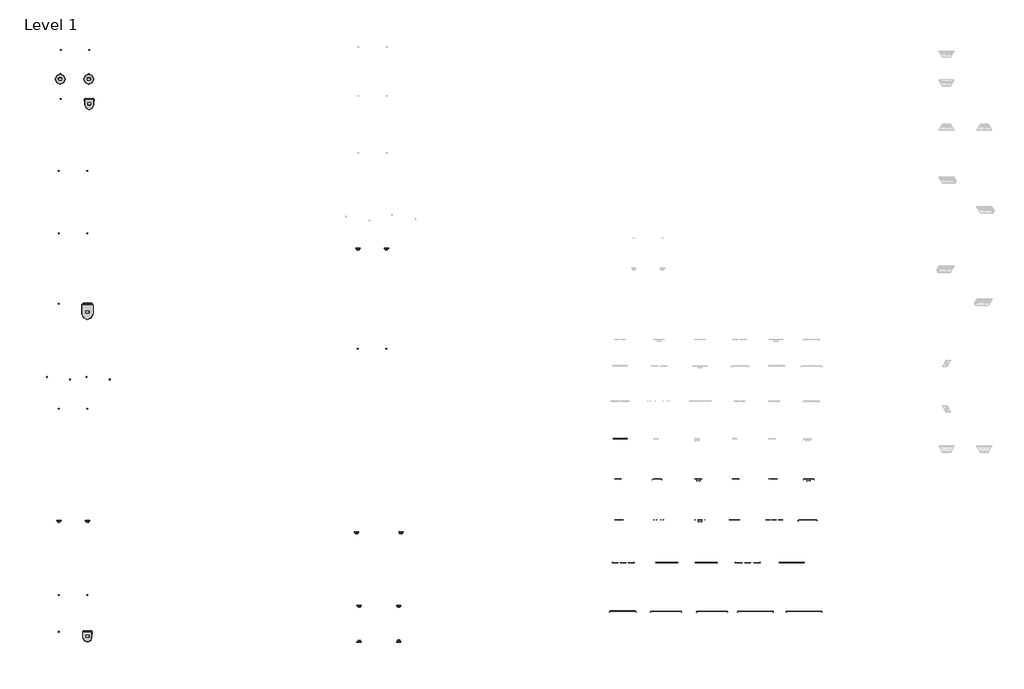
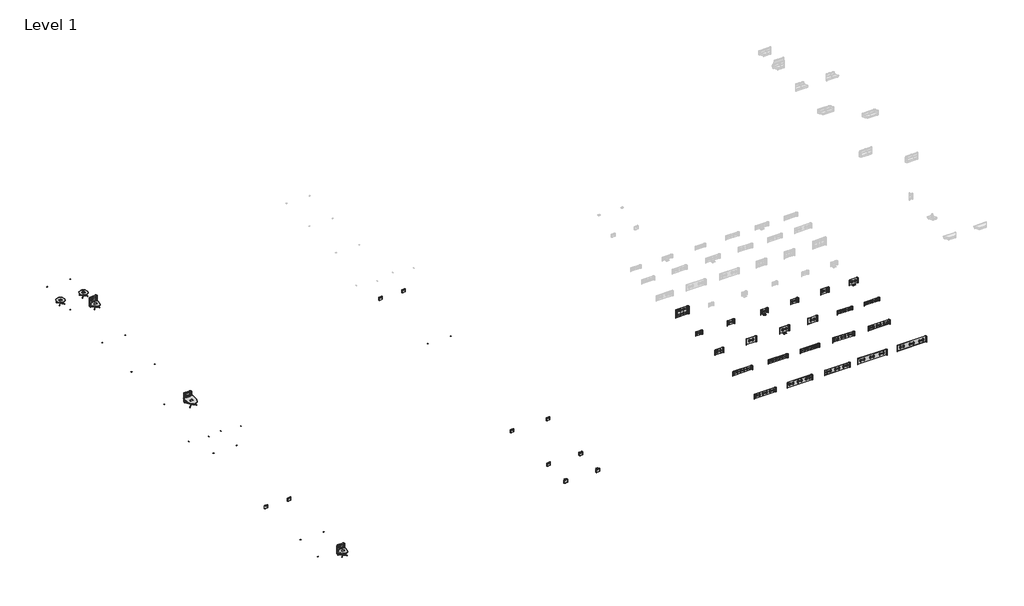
# One storey, part 1 of 2: 60 furniture elements.
"""IFC4 building model written with IfcOpenShell, lengths in millimetres."""

from ifc_helpers import new_model, si_unit, origin, place, context, project, spatial, transform, mapped, element, save
from components import furniture_814a4d4c, furniture_2_1_2in_ef0c8fad, furniture_5_1_2in_ac73947f, single_monitor_d58aa900, single_monitor_78e2c569, single_monitor_780de22c, single_monitor_ce154898, single_monitor_084039e9, single_monitor_e5c85c67, steelcase_media_scape_table_lounge_height_round_laminate_top_3a966390, steelcase_media_scape_table_lounge_height_round_veneer_top_e40d57ec, steelcase_media_scape_wall_mounted_shroud_eeef9ecd, steelcase_media_scape_wall_mounted_shroud_80d280f4, steelcase_media_scape_wall_mounted_shroud_quad_42in_seismic_1889dec9, steelcase_media_scape_wall_mounted_shroud_single_42in_ae8f179e, steelcase_media_scape_wall_mounted_shroud_single_46in_c8ec8d64, steelcase_media_scape_wall_mounted_shroud_single_46in_bridge_72783157, steelcase_media_scape_wall_mounted_shroud_single_46in_9a26b01a, steelcase_media_scape_wall_mounted_shroud_single_55in_b1bea1b6, steelcase_media_scape_wall_mounted_shroud_single_55in_bridge_4c39ce80, steelcase_media_scape_wall_mounted_shroud_single_55in_8a6e21d3, steelcase_media_scape_wall_mounted_shroud_single_65in_d2882137, steelcase_media_scape_wall_mounted_shroud_single_65in_bridge_b7c3bce4, steelcase_media_scape_wall_mounted_shroud_single_65in_a4da2b3e, steelcase_media_scape_wall_mounted_shroud_triple_32in_3cb7a1fa, steelcase_media_scape_wall_mounted_shroud_triple_32in_fca1dc44, steelcase_media_scape_wall_mounted_shroud_triple_42in_8bc5bf69, steelcase_media_scape_wall_mounted_shroud_triple_42in_96fccb2f, steelcase_media_scape_wall_mounted_shroud_triple_46in_d5bfb77c, steelcase_media_scape_wall_mounted_shroud_triple_46in_346eaddb, steelcase_media_scape_wall_mounted_shroud_triple_55in_0f4544b8, steelcase_media_scape_wall_mounted_shroud_triple_55in_44b6645d, steelcase_media_scape_wall_mounted_shroud_triple_65in_d4411b09, steelcase_media_scape_wall_mounted_shroud_triple_65in_e049d22b

model = new_model("IFC4")

# Units and contexts
model_context = context("Model", 3, world=origin())
ifc_project = project(units=[si_unit("LENGTHUNIT", "METRE", prefix="MILLI")], contexts=[model_context])

# Site, building, storey
site = spatial("IfcSite", under=ifc_project)
building = spatial("IfcBuilding", under=site)
storey = spatial("IfcBuildingStorey", under=building, Name="Level 1", Elevation=0.0)

# Furniture
placement = place(None, origin())
furniture_shape = furniture_814a4d4c(model_context)
element("IfcFurniture", 1, ObjectType="Steelcase - Media Scape - CODEC Case : No Codec Case", at=placement, inside=storey, context=model_context, shape_type="MappedRepresentation", body=[
    mapped(furniture_shape, transform((-11994.0290715, -72062.4612238, -123.1137828), x_axis=(1.0, 0.0, 0.0), y_axis=(0.0, 1.0, 0.0), z_axis=(0.0, 0.0, 1.0))),
])
element("IfcFurniture", 2, ObjectType="Steelcase - Media Scape - CODEC Case : No Codec Case", at=placement, inside=storey, context=model_context, shape_type="MappedRepresentation", body=[
    mapped(furniture_shape, transform((-8187.6528239, -72062.4612238, -123.1137828), x_axis=(1.0, 0.0, 0.0), y_axis=(0.0, 1.0, 0.0), z_axis=(0.0, 0.0, 1.0))),
])
element("IfcFurniture", 3, ObjectType="Steelcase - Media Scape - CODEC Case : No Codec Case", at=placement, inside=storey, context=model_context, shape_type="MappedRepresentation", body=[
    mapped(furniture_shape, transform((-11968.6290715, -78615.6612239, -123.1137828), x_axis=(1.0, 0.0, 0.0), y_axis=(0.0, 1.0, 0.0), z_axis=(0.0, 0.0, 1.0))),
])
element("IfcFurniture", 4, ObjectType="Steelcase - Media Scape - CODEC Case : No Codec Case", at=placement, inside=storey, context=model_context, shape_type="MappedRepresentation", body=[
    mapped(furniture_shape, transform((-8168.6028239, -78615.6612239, -123.1137828), x_axis=(1.0, 0.0, 0.0), y_axis=(0.0, 1.0, 0.0), z_axis=(0.0, 0.0, 1.0))),
])
element("IfcFurniture", 5, ObjectType="Steelcase - Media Scape - CODEC Case : No Codec Case", at=placement, inside=storey, context=model_context, shape_type="MappedRepresentation", body=[
    mapped(furniture_shape, transform((-12248.4931199, -88200.0100561, 4.599904), x_axis=(1.0, 0.0, 0.0), y_axis=(0.0, 1.0, 0.0), z_axis=(0.0, 0.0, 1.0))),
])
element("IfcFurniture", 6, ObjectType="Steelcase - Media Scape - CODEC Case : No Codec Case", at=placement, inside=storey, context=model_context, shape_type="MappedRepresentation", body=[
    mapped(furniture_shape, transform((-8442.1168723, -88200.0100561, 4.599904), x_axis=(1.0, 0.0, 0.0), y_axis=(0.0, 1.0, 0.0), z_axis=(0.0, 0.0, 1.0))),
])
element("IfcFurniture", 7, ObjectType="Steelcase - Media Scape - CODEC Case : No Codec Case", at=placement, inside=storey, context=model_context, shape_type="MappedRepresentation", body=[
    mapped(furniture_shape, transform((-12234.5180757, -96568.7214478, 0.0), x_axis=(1.0, 0.0, 0.0), y_axis=(0.0, 1.0, 0.0), z_axis=(0.0, 0.0, 1.0))),
])
element("IfcFurniture", 8, ObjectType="Steelcase - Media Scape - CODEC Case : No Codec Case", at=placement, inside=storey, context=model_context, shape_type="MappedRepresentation", body=[
    mapped(furniture_shape, transform((-8415.4418282, -96568.7214478, 0.0), x_axis=(1.0, 0.0, 0.0), y_axis=(0.0, 1.0, 0.0), z_axis=(0.0, 0.0, 1.0))),
])
element("IfcFurniture", 9, ObjectType="Steelcase - Media Scape - CODEC Case : No Codec Case", at=placement, inside=storey, context=model_context, shape_type="MappedRepresentation", body=[
    mapped(furniture_shape, transform((-12234.5180757, -105966.7214478, 16.586193), x_axis=(1.0, 0.0, 0.0), y_axis=(0.0, 1.0, 0.0), z_axis=(0.0, 0.0, 1.0))),
])
element("IfcFurniture", 10, ObjectType="Steelcase - Media Scape - CODEC Case : No Codec Case", at=placement, inside=storey, context=model_context, shape_type="MappedRepresentation", body=[
    mapped(furniture_shape, transform((-8415.4418282, -105966.7214478, 16.586193), x_axis=(1.0, 0.0, 0.0), y_axis=(0.0, 1.0, 0.0), z_axis=(0.0, 0.0, 1.0))),
])
element("IfcFurniture", 11, ObjectType="Steelcase - Media Scape - CODEC Case : No Codec Case", at=placement, inside=storey, context=model_context, shape_type="MappedRepresentation", body=[
    mapped(furniture_shape, transform((-13645.4141205, -115522.9446744, 22.5806), x_axis=(0.0, 1.0000000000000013, 0.0), y_axis=(-1.0000000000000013, 0.0, 0.0), z_axis=(0.0, 0.0, 1.0))),
])
element("IfcFurniture", 12, ObjectType="Steelcase - Media Scape - CODEC Case : No Codec Case", at=placement, inside=storey, context=model_context, shape_type="MappedRepresentation", body=[
    mapped(furniture_shape, transform((-10901.8348333, -115856.2365218, 9.0424), x_axis=(0.0, -1.0000000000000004, 0.0), y_axis=(1.0000000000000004, 0.0, 0.0), z_axis=(0.0, 0.0, 1.0))),
])
element("IfcFurniture", 13, ObjectType="Steelcase - Media Scape - CODEC Case : No Codec Case", at=placement, inside=storey, context=model_context, shape_type="MappedRepresentation", body=[
    mapped(furniture_shape, transform((-8362.2141205, -115522.9446744, 22.5806), x_axis=(0.0, 1.0000000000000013, 0.0), y_axis=(-1.0000000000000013, 0.0, 0.0), z_axis=(0.0, 0.0, 1.0))),
])
element("IfcFurniture", 14, ObjectType="Steelcase - Media Scape - CODEC Case : No Codec Case", at=placement, inside=storey, context=model_context, shape_type="MappedRepresentation", body=[
    mapped(furniture_shape, transform((-5618.6348333, -115856.2365218, 9.0424), x_axis=(0.0, -1.0000000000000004, 0.0), y_axis=(1.0000000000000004, 0.0, 0.0), z_axis=(0.0, 0.0, 1.0))),
])
element("IfcFurniture", 15, ObjectType="Steelcase - Media Scape - CODEC Case : No Codec Case", at=placement, inside=storey, context=model_context, shape_type="MappedRepresentation", body=[
    mapped(furniture_shape, transform((-12221.8180757, -119956.3365579, 16.586193), x_axis=(1.0, 0.0, 0.0), y_axis=(0.0, 1.0, 0.0), z_axis=(0.0, 0.0, 1.0))),
])
element("IfcFurniture", 16, ObjectType="Steelcase - Media Scape - CODEC Case : No Codec Case", at=placement, inside=storey, context=model_context, shape_type="MappedRepresentation", body=[
    mapped(furniture_shape, transform((-8415.4418282, -119956.3365579, 16.586193), x_axis=(1.0, 0.0, 0.0), y_axis=(0.0, 1.0, 0.0), z_axis=(0.0, 0.0, 1.0))),
])
element("IfcFurniture", 17, ObjectType="Steelcase - Media Scape - CODEC Case : No Codec Case", at=placement, inside=storey, context=model_context, shape_type="MappedRepresentation", body=[
    mapped(furniture_shape, transform((-12234.5180757, -144810.1323097, 16.5862172), x_axis=(1.0, 0.0, 0.0), y_axis=(0.0, 1.0, 0.0), z_axis=(0.0, 0.0, 1.0))),
])
element("IfcFurniture", 18, ObjectType="Steelcase - Media Scape - CODEC Case : No Codec Case", at=placement, inside=storey, context=model_context, shape_type="MappedRepresentation", body=[
    mapped(furniture_shape, transform((-8415.4418282, -144810.1323097, 16.5862172), x_axis=(1.0, 0.0, 0.0), y_axis=(0.0, 1.0, 0.0), z_axis=(0.0, 0.0, 1.0))),
])
element("IfcFurniture", 19, ObjectType="Steelcase - Media Scape - CODEC Case : No Codec Case", at=placement, inside=storey, context=model_context, shape_type="MappedRepresentation", body=[
    mapped(furniture_shape, transform((27674.5928695, -111939.3780777, 257.886193), x_axis=(1.0, 0.0, 0.0), y_axis=(0.0, 1.0, 0.0), z_axis=(0.0, 0.0, 1.0))),
])
element("IfcFurniture", 20, ObjectType="Steelcase - Media Scape - CODEC Case : No Codec Case", at=placement, inside=storey, context=model_context, shape_type="MappedRepresentation", body=[
    mapped(furniture_shape, transform((31468.2691171, -111939.3780777, 257.886193), x_axis=(1.0, 0.0, 0.0), y_axis=(0.0, 1.0, 0.0), z_axis=(0.0, 0.0, 1.0))),
])
element("IfcFurniture", 21, ObjectType="Steelcase - Media Scape - CODEC Case : No Codec Case", at=placement, inside=storey, context=model_context, shape_type="MappedRepresentation", body=[
    mapped(furniture_shape, transform((-12236.9057657, -149733.3895587, 37.1602172), x_axis=(1.0, 0.0, 0.0), y_axis=(0.0, 1.0, 0.0), z_axis=(0.0, 0.0, 1.0))),
])
element("IfcFurniture", 22, ObjectType="Steelcase - Media Scape - CODEC Case : No Codec Case", at=placement, inside=storey, context=model_context, shape_type="MappedRepresentation", body=[
    mapped(furniture_shape, transform((-8417.8295181, -149733.3895587, 37.1602172), x_axis=(1.0, 0.0, 0.0), y_axis=(0.0, 1.0, 0.0), z_axis=(0.0, 0.0, 1.0))),
])
furniture_2_1_2in_shape = furniture_2_1_2in_ef0c8fad(model_context)
element("IfcFurniture", 23, ObjectType="Steelcase - Media Scape - CODEC Case : 2 1/2in", at=placement, inside=storey, context=model_context, shape_type="MappedRepresentation", body=[
    mapped(furniture_2_1_2in_shape, transform((-12224.7085349, -134915.5239958, 0.0), x_axis=(1.0, 0.0, 0.0), y_axis=(0.0, 1.0, 0.0), z_axis=(0.0, 0.0, 1.0))),
])
element("IfcFurniture", 24, ObjectType="Steelcase - Media Scape - CODEC Case : 2 1/2in", at=placement, inside=storey, context=model_context, shape_type="MappedRepresentation", body=[
    mapped(furniture_2_1_2in_shape, transform((-8405.6322873, -134915.5239958, 0.0), x_axis=(1.0, 0.0, 0.0), y_axis=(0.0, 1.0, 0.0), z_axis=(0.0, 0.0, 1.0))),
])
element("IfcFurniture", 25, ObjectType="Steelcase - Media Scape - CODEC Case : 2 1/2in", at=placement, inside=storey, context=model_context, shape_type="MappedRepresentation", body=[
    mapped(furniture_2_1_2in_shape, transform((27687.2928695, -98528.1780777, 257.886193), x_axis=(1.0, 0.0, 0.0), y_axis=(0.0, 1.0, 0.0), z_axis=(0.0, 0.0, 1.0))),
])
element("IfcFurniture", 26, ObjectType="Steelcase - Media Scape - CODEC Case : 2 1/2in", at=placement, inside=storey, context=model_context, shape_type="MappedRepresentation", body=[
    mapped(furniture_2_1_2in_shape, transform((31468.2691171, -98528.1780777, 257.886193), x_axis=(1.0, 0.0, 0.0), y_axis=(0.0, 1.0, 0.0), z_axis=(0.0, 0.0, 1.0))),
])
element("IfcFurniture", 27, ObjectType="Steelcase - Media Scape - CODEC Case : 2 1/2in", at=placement, inside=storey, context=model_context, shape_type="MappedRepresentation", body=[
    mapped(furniture_2_1_2in_shape, transform((27477.2106554, -136423.5317083, 257.886193), x_axis=(1.0, 0.0, 0.0), y_axis=(0.0, 1.0, 0.0), z_axis=(0.0, 0.0, 1.0))),
])
element("IfcFurniture", 28, ObjectType="Steelcase - Media Scape - CODEC Case : 2 1/2in", at=placement, inside=storey, context=model_context, shape_type="MappedRepresentation", body=[
    mapped(furniture_2_1_2in_shape, transform((33408.8789534, -136423.5317083, 257.886193), x_axis=(1.0, 0.0, 0.0), y_axis=(0.0, 1.0, 0.0), z_axis=(0.0, 0.0, 1.0))),
])
element("IfcFurniture", 29, ObjectType="Steelcase - Media Scape - CODEC Case : 2 1/2in", at=placement, inside=storey, context=model_context, shape_type="MappedRepresentation", body=[
    mapped(furniture_2_1_2in_shape, transform((27826.9299115, -146210.2683829, 257.886193), x_axis=(1.0, 0.0, 0.0), y_axis=(0.0, 1.0, 0.0), z_axis=(0.0, 0.0, 1.0))),
])
element("IfcFurniture", 30, ObjectType="Steelcase - Media Scape - CODEC Case : 2 1/2in", at=placement, inside=storey, context=model_context, shape_type="MappedRepresentation", body=[
    mapped(furniture_2_1_2in_shape, transform((27827.7611722, -150737.5437727, 257.886193), x_axis=(-1.0000000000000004, 0.0, 0.0), y_axis=(0.0, -1.0000000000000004, 0.0), z_axis=(0.0, 0.0, 1.0))),
])
furniture_5_1_2in_shape = furniture_5_1_2in_ac73947f(model_context)
element("IfcFurniture", 31, ObjectType="Steelcase - Media Scape - CODEC Case : 5 1/2in", at=placement, inside=storey, context=model_context, shape_type="MappedRepresentation", body=[
    mapped(furniture_5_1_2in_shape, transform((33104.0789534, -146210.2683829, 257.886193), x_axis=(1.0, 0.0, 0.0), y_axis=(0.0, 1.0, 0.0), z_axis=(0.0, 0.0, 1.0))),
])
element("IfcFurniture", 32, ObjectType="Steelcase - Media Scape - CODEC Case : 5 1/2in", at=placement, inside=storey, context=model_context, shape_type="MappedRepresentation", body=[
    mapped(furniture_5_1_2in_shape, transform((33104.910214, -150737.5437727, 257.886193), x_axis=(-1.0000000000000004, 0.0, 0.0), y_axis=(0.0, -1.0000000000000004, 0.0), z_axis=(0.0, 0.0, 1.0))),
])
single_monitor_shape = single_monitor_d58aa900(model_context)
single_monitor_2_shape = single_monitor_78e2c569(model_context)
element("IfcFurniture", 33, ObjectType="Steelcase - Media Scape - Table - Desk Height - Large D Shape with Attached Totem : Single Monitor", at=placement, inside=storey, context=model_context, shape_type="MappedRepresentation", body=[
    mapped(single_monitor_shape, transform((-9292.7509439, -105682.9865906, 0.0), x_axis=(1.0, 0.0, 0.0), y_axis=(0.0, 1.0, 0.0), z_axis=(0.0, 0.0, 1.0))),
    mapped(single_monitor_2_shape, transform((-9292.7509439, -105682.9865906, 0.0), x_axis=(1.0, 0.0, 0.0), y_axis=(0.0, 1.0, 0.0), z_axis=(0.0, 0.0, 1.0))),
])
single_monitor_3_shape = single_monitor_780de22c(model_context)
single_monitor_4_shape = single_monitor_ce154898(model_context)
element("IfcFurniture", 34, ObjectType="Steelcase - Media Scape - Table - Desk Height - Small D Shape with Attached Totem : Single Monitor", at=placement, inside=storey, context=model_context, shape_type="MappedRepresentation", body=[
    mapped(single_monitor_3_shape, transform((-9292.7509439, -149441.8104243, 0.0), x_axis=(1.0, 0.0, 0.0), y_axis=(0.0, 1.0, 0.0), z_axis=(0.0, 0.0, 1.0))),
    mapped(single_monitor_4_shape, transform((-9292.7509439, -149441.8104243, 0.0), x_axis=(1.0, 0.0, 0.0), y_axis=(0.0, 1.0, 0.0), z_axis=(0.0, 0.0, 1.0))),
])
single_monitor_5_shape = single_monitor_084039e9(model_context)
single_monitor_6_shape = single_monitor_e5c85c67(model_context)
element("IfcFurniture", 35, ObjectType="Steelcase - Media Scape - Table - Lounge Height - Small D Shape with Attached Totem : Single Monitor", at=placement, inside=storey, context=model_context, shape_type="MappedRepresentation", body=[
    mapped(single_monitor_5_shape, transform((-9045.9119396, -78361.4843467, 0.0), x_axis=(1.0, 0.0, 0.0), y_axis=(0.0, 1.0, 0.0), z_axis=(0.0, 0.0, 1.0))),
    mapped(single_monitor_6_shape, transform((-9045.9119396, -78361.4843467, 0.0), x_axis=(1.0, 0.0, 0.0), y_axis=(0.0, 1.0, 0.0), z_axis=(0.0, 0.0, 1.0))),
])
steelcase_media_scape_table_lounge_height_round_laminate_top_shape = steelcase_media_scape_table_lounge_height_round_laminate_top_3a966390(model_context)
element("IfcFurniture", 36, ObjectType="Steelcase - Media Scape - Table - Lounge Height - Round : Laminate Top", at=placement, inside=storey, context=model_context, shape_type="MappedRepresentation", body=[
    mapped(steelcase_media_scape_table_lounge_height_round_laminate_top_shape, transform((-12045.8381872, -75770.6843467, 0.0), x_axis=(1.0, 0.0, 0.0), y_axis=(0.0, 1.0, 0.0), z_axis=(0.0, 0.0, 1.0))),
])
steelcase_media_scape_table_lounge_height_round_veneer_top_shape = steelcase_media_scape_table_lounge_height_round_veneer_top_e40d57ec(model_context)
element("IfcFurniture", 37, ObjectType="Steelcase - Media Scape - Table - Lounge Height - Round : Veneer Top", at=placement, inside=storey, context=model_context, shape_type="MappedRepresentation", body=[
    mapped(steelcase_media_scape_table_lounge_height_round_veneer_top_shape, transform((-8226.7619396, -75770.6843467, 0.0), x_axis=(1.0, 0.0, 0.0), y_axis=(0.0, 1.0, 0.0), z_axis=(0.0, 0.0, 1.0))),
])
steelcase_media_scape_wall_mounted_shroud_shape = steelcase_media_scape_wall_mounted_shroud_eeef9ecd(model_context)
element("IfcFurniture", 38, ObjectType="Steelcase - Media Scape - Wall-Mounted Shroud : Triple - 42in with CODEC Case", at=placement, inside=storey, context=model_context, shape_type="MappedRepresentation", body=[
    mapped(steelcase_media_scape_wall_mounted_shroud_shape, transform((74121.1090238, -140299.0476947, 0.0), x_axis=(1.0, 0.0, 0.0), y_axis=(0.0, 1.0, 0.0), z_axis=(0.0, 0.0, 1.0))),
])
steelcase_media_scape_wall_mounted_shroud_2_shape = steelcase_media_scape_wall_mounted_shroud_80d280f4(model_context)
element("IfcFurniture", 39, ObjectType="Steelcase - Media Scape - Wall-Mounted Shroud : Triple - 46in with CODEC Case", at=placement, inside=storey, context=model_context, shape_type="MappedRepresentation", body=[
    mapped(steelcase_media_scape_wall_mounted_shroud_2_shape, transform((62994.5387171, -146783.2428914, 0.0), x_axis=(1.0, 0.0, 0.0), y_axis=(0.0, 1.0, 0.0), z_axis=(0.0, 0.0, 1.0))),
])
steelcase_media_scape_wall_mounted_shroud_quad_42in_seismic_shape = steelcase_media_scape_wall_mounted_shroud_quad_42in_seismic_1889dec9(model_context)
element("IfcFurniture", 40, ObjectType="Steelcase - Media Scape - Wall-Mounted Shroud : Quad - 42in - Seismic", at=placement, inside=storey, context=model_context, shape_type="MappedRepresentation", body=[
    mapped(steelcase_media_scape_wall_mounted_shroud_quad_42in_seismic_shape, transform((62640.3090238, -123763.420482, 0.0), x_axis=(1.0, 0.0, 0.0), y_axis=(0.0, 1.0, 0.0), z_axis=(0.0, 0.0, 1.0))),
])
steelcase_media_scape_wall_mounted_shroud_single_42in_shape = steelcase_media_scape_wall_mounted_shroud_single_42in_ae8f179e(model_context)
element("IfcFurniture", 41, ObjectType="Steelcase - Media Scape - Wall-Mounted Shroud : Single - 42in - Seismic", at=placement, inside=storey, context=model_context, shape_type="MappedRepresentation", body=[
    mapped(steelcase_media_scape_wall_mounted_shroud_single_42in_shape, transform((62348.2090238, -129119.1982314, 0.0), x_axis=(1.0, 0.0, 0.0), y_axis=(0.0, 1.0, 0.0), z_axis=(0.0, 0.0, 1.0))),
])
steelcase_media_scape_wall_mounted_shroud_single_46in_shape = steelcase_media_scape_wall_mounted_shroud_single_46in_c8ec8d64(model_context)
element("IfcFurniture", 42, ObjectType="Steelcase - Media Scape - Wall-Mounted Shroud : Single - 46in", at=placement, inside=storey, context=model_context, shape_type="MappedRepresentation", body=[
    mapped(steelcase_media_scape_wall_mounted_shroud_single_46in_shape, transform((67586.9590238, -129119.1982314, 0.0), x_axis=(1.0, 0.0, 0.0), y_axis=(0.0, 1.0, 0.0), z_axis=(0.0, 0.0, 1.0))),
])
steelcase_media_scape_wall_mounted_shroud_single_46in_bridge_shape = steelcase_media_scape_wall_mounted_shroud_single_46in_bridge_72783157(model_context)
element("IfcFurniture", 43, ObjectType="Steelcase - Media Scape - Wall-Mounted Shroud : Single - 46in - Bridge", at=placement, inside=storey, context=model_context, shape_type="MappedRepresentation", body=[
    mapped(steelcase_media_scape_wall_mounted_shroud_single_46in_bridge_shape, transform((73073.3590238, -129119.1982314, 0.0), x_axis=(1.0, 0.0, 0.0), y_axis=(0.0, 1.0, 0.0), z_axis=(0.0, 0.0, 1.0))),
])
steelcase_media_scape_wall_mounted_shroud_single_46in_2_shape = steelcase_media_scape_wall_mounted_shroud_single_46in_9a26b01a(model_context)
element("IfcFurniture", 44, ObjectType="Steelcase - Media Scape - Wall-Mounted Shroud : Single - 46in - Seismic", at=placement, inside=storey, context=model_context, shape_type="MappedRepresentation", body=[
    mapped(steelcase_media_scape_wall_mounted_shroud_single_46in_2_shape, transform((78077.1590238, -129119.1982314, 0.0), x_axis=(1.0, 0.0, 0.0), y_axis=(0.0, 1.0, 0.0), z_axis=(0.0, 0.0, 1.0))),
])
steelcase_media_scape_wall_mounted_shroud_single_55in_shape = steelcase_media_scape_wall_mounted_shroud_single_55in_b1bea1b6(model_context)
element("IfcFurniture", 45, ObjectType="Steelcase - Media Scape - Wall-Mounted Shroud : Single - 55in", at=placement, inside=storey, context=model_context, shape_type="MappedRepresentation", body=[
    mapped(steelcase_media_scape_wall_mounted_shroud_single_55in_shape, transform((83049.2090238, -129119.1982314, 0.0), x_axis=(1.0, 0.0, 0.0), y_axis=(0.0, 1.0, 0.0), z_axis=(0.0, 0.0, 1.0))),
])
steelcase_media_scape_wall_mounted_shroud_single_55in_bridge_shape = steelcase_media_scape_wall_mounted_shroud_single_55in_bridge_4c39ce80(model_context)
element("IfcFurniture", 46, ObjectType="Steelcase - Media Scape - Wall-Mounted Shroud : Single - 55in - Bridge", at=placement, inside=storey, context=model_context, shape_type="MappedRepresentation", body=[
    mapped(steelcase_media_scape_wall_mounted_shroud_single_55in_bridge_shape, transform((87797.4800332, -129119.1982314, 0.0), x_axis=(1.0, 0.0, 0.0), y_axis=(0.0, 1.0, 0.0), z_axis=(0.0, 0.0, 1.0))),
])
steelcase_media_scape_wall_mounted_shroud_single_55in_2_shape = steelcase_media_scape_wall_mounted_shroud_single_55in_8a6e21d3(model_context)
element("IfcFurniture", 47, ObjectType="Steelcase - Media Scape - Wall-Mounted Shroud : Single - 55in - Seismic", at=placement, inside=storey, context=model_context, shape_type="MappedRepresentation", body=[
    mapped(steelcase_media_scape_wall_mounted_shroud_single_55in_2_shape, transform((62500.6090238, -134583.820482, 0.0), x_axis=(1.0, 0.0, 0.0), y_axis=(0.0, 1.0, 0.0), z_axis=(0.0, 0.0, 1.0))),
])
steelcase_media_scape_wall_mounted_shroud_single_65in_shape = steelcase_media_scape_wall_mounted_shroud_single_65in_d2882137(model_context)
element("IfcFurniture", 48, ObjectType="Steelcase - Media Scape - Wall-Mounted Shroud : Single - 65in", at=placement, inside=storey, context=model_context, shape_type="MappedRepresentation", body=[
    mapped(steelcase_media_scape_wall_mounted_shroud_single_65in_shape, transform((67796.5090238, -134583.820482, 0.0), x_axis=(1.0, 0.0, 0.0), y_axis=(0.0, 1.0, 0.0), z_axis=(0.0, 0.0, 1.0))),
])
steelcase_media_scape_wall_mounted_shroud_single_65in_bridge_shape = steelcase_media_scape_wall_mounted_shroud_single_65in_bridge_b7c3bce4(model_context)
element("IfcFurniture", 49, ObjectType="Steelcase - Media Scape - Wall-Mounted Shroud : Single - 65in - Bridge", at=placement, inside=storey, context=model_context, shape_type="MappedRepresentation", body=[
    mapped(steelcase_media_scape_wall_mounted_shroud_single_65in_bridge_shape, transform((73282.9090238, -134583.820482, 0.0), x_axis=(1.0, 0.0, 0.0), y_axis=(0.0, 1.0, 0.0), z_axis=(0.0, 0.0, 1.0))),
])
steelcase_media_scape_wall_mounted_shroud_single_65in_2_shape = steelcase_media_scape_wall_mounted_shroud_single_65in_a4da2b3e(model_context)
element("IfcFurniture", 50, ObjectType="Steelcase - Media Scape - Wall-Mounted Shroud : Single - 65in - Seismic", at=placement, inside=storey, context=model_context, shape_type="MappedRepresentation", body=[
    mapped(steelcase_media_scape_wall_mounted_shroud_single_65in_2_shape, transform((77905.7090238, -134583.820482, 0.0), x_axis=(1.0, 0.0, 0.0), y_axis=(0.0, 1.0, 0.0), z_axis=(0.0, 0.0, 1.0))),
])
steelcase_media_scape_wall_mounted_shroud_triple_32in_shape = steelcase_media_scape_wall_mounted_shroud_triple_32in_3cb7a1fa(model_context)
element("IfcFurniture", 51, ObjectType="Steelcase - Media Scape - Wall-Mounted Shroud : Triple - 32in", at=placement, inside=storey, context=model_context, shape_type="MappedRepresentation", body=[
    mapped(steelcase_media_scape_wall_mounted_shroud_triple_32in_shape, transform((83188.9090238, -134583.820482, 0.0), x_axis=(1.0, 0.0, 0.0), y_axis=(0.0, 1.0, 0.0), z_axis=(0.0, 0.0, 1.0))),
])
steelcase_media_scape_wall_mounted_shroud_triple_32in_2_shape = steelcase_media_scape_wall_mounted_shroud_triple_32in_fca1dc44(model_context)
element("IfcFurniture", 52, ObjectType="Steelcase - Media Scape - Wall-Mounted Shroud : Triple - 32in - Seismic", at=placement, inside=storey, context=model_context, shape_type="MappedRepresentation", body=[
    mapped(steelcase_media_scape_wall_mounted_shroud_triple_32in_2_shape, transform((87645.0800332, -134583.820482, 0.0), x_axis=(1.0, 0.0, 0.0), y_axis=(0.0, 1.0, 0.0), z_axis=(0.0, 0.0, 1.0))),
])
steelcase_media_scape_wall_mounted_shroud_triple_42in_shape = steelcase_media_scape_wall_mounted_shroud_triple_42in_8bc5bf69(model_context)
element("IfcFurniture", 53, ObjectType="Steelcase - Media Scape - Wall-Mounted Shroud : Triple - 42in", at=placement, inside=storey, context=model_context, shape_type="MappedRepresentation", body=[
    mapped(steelcase_media_scape_wall_mounted_shroud_triple_42in_shape, transform((63046.7090238, -140299.0476947, 0.0), x_axis=(1.0, 0.0, 0.0), y_axis=(0.0, 1.0, 0.0), z_axis=(0.0, 0.0, 1.0))),
])
steelcase_media_scape_wall_mounted_shroud_triple_42in_2_shape = steelcase_media_scape_wall_mounted_shroud_triple_42in_96fccb2f(model_context)
element("IfcFurniture", 54, ObjectType="Steelcase - Media Scape - Wall-Mounted Shroud : Triple - 42in - Seismic", at=placement, inside=storey, context=model_context, shape_type="MappedRepresentation", body=[
    mapped(steelcase_media_scape_wall_mounted_shroud_triple_42in_2_shape, transform((68876.0090238, -140299.0476947, 0.0), x_axis=(1.0, 0.0, 0.0), y_axis=(0.0, 1.0, 0.0), z_axis=(0.0, 0.0, 1.0))),
])
steelcase_media_scape_wall_mounted_shroud_triple_46in_shape = steelcase_media_scape_wall_mounted_shroud_triple_46in_d5bfb77c(model_context)
element("IfcFurniture", 55, ObjectType="Steelcase - Media Scape - Wall-Mounted Shroud : Triple - 46in", at=placement, inside=storey, context=model_context, shape_type="MappedRepresentation", body=[
    mapped(steelcase_media_scape_wall_mounted_shroud_triple_46in_shape, transform((79682.1800332, -140299.0476947, 0.0), x_axis=(1.0, 0.0, 0.0), y_axis=(0.0, 1.0, 0.0), z_axis=(0.0, 0.0, 1.0))),
])
steelcase_media_scape_wall_mounted_shroud_triple_46in_2_shape = steelcase_media_scape_wall_mounted_shroud_triple_46in_346eaddb(model_context)
element("IfcFurniture", 56, ObjectType="Steelcase - Media Scape - Wall-Mounted Shroud : Triple - 46in - Seismic", at=placement, inside=storey, context=model_context, shape_type="MappedRepresentation", body=[
    mapped(steelcase_media_scape_wall_mounted_shroud_triple_46in_2_shape, transform((85520.2334849, -140299.0476947, 0.0), x_axis=(1.0, 0.0, 0.0), y_axis=(0.0, 1.0, 0.0), z_axis=(0.0, 0.0, 1.0))),
])
steelcase_media_scape_wall_mounted_shroud_triple_55in_shape = steelcase_media_scape_wall_mounted_shroud_triple_55in_0f4544b8(model_context)
element("IfcFurniture", 57, ObjectType="Steelcase - Media Scape - Wall-Mounted Shroud : Triple - 55in", at=placement, inside=storey, context=model_context, shape_type="MappedRepresentation", body=[
    mapped(steelcase_media_scape_wall_mounted_shroud_triple_55in_shape, transform((68753.9887171, -146783.2428914, 0.0), x_axis=(1.0, 0.0, 0.0), y_axis=(0.0, 1.0, 0.0), z_axis=(0.0, 0.0, 1.0))),
])
steelcase_media_scape_wall_mounted_shroud_triple_55in_2_shape = steelcase_media_scape_wall_mounted_shroud_triple_55in_44b6645d(model_context)
element("IfcFurniture", 58, ObjectType="Steelcase - Media Scape - Wall-Mounted Shroud : Triple - 55in - Seismic", at=placement, inside=storey, context=model_context, shape_type="MappedRepresentation", body=[
    mapped(steelcase_media_scape_wall_mounted_shroud_triple_55in_2_shape, transform((74911.9597264, -146783.2428914, 0.0), x_axis=(1.0, 0.0, 0.0), y_axis=(0.0, 1.0, 0.0), z_axis=(0.0, 0.0, 1.0))),
])
steelcase_media_scape_wall_mounted_shroud_triple_65in_shape = steelcase_media_scape_wall_mounted_shroud_triple_65in_d4411b09(model_context)
element("IfcFurniture", 59, ObjectType="Steelcase - Media Scape - Wall-Mounted Shroud : Triple - 65in", at=placement, inside=storey, context=model_context, shape_type="MappedRepresentation", body=[
    mapped(steelcase_media_scape_wall_mounted_shroud_triple_65in_shape, transform((80671.4097264, -146783.2428914, 0.0), x_axis=(1.0, 0.0, 0.0), y_axis=(0.0, 1.0, 0.0), z_axis=(0.0, 0.0, 1.0))),
])
steelcase_media_scape_wall_mounted_shroud_triple_65in_2_shape = steelcase_media_scape_wall_mounted_shroud_triple_65in_e049d22b(model_context)
element("IfcFurniture", 60, ObjectType="Steelcase - Media Scape - Wall-Mounted Shroud : Triple - 65in - Seismic", at=placement, inside=storey, context=model_context, shape_type="MappedRepresentation", body=[
    mapped(steelcase_media_scape_wall_mounted_shroud_triple_65in_2_shape, transform((87189.536493, -146783.2428914, 0.0), x_axis=(1.0, 0.0, 0.0), y_axis=(0.0, 1.0, 0.0), z_axis=(0.0, 0.0, 1.0))),
])

save(model, "model.ifc")
